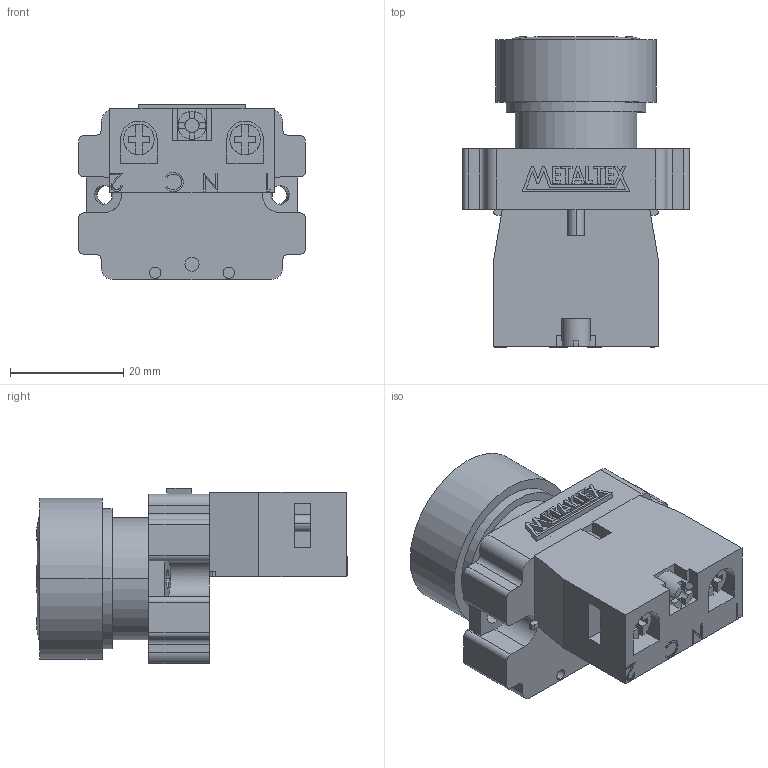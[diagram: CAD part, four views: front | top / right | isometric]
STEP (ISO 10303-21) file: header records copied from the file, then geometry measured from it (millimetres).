
FILE_DESCRIPTION (( 'STEP AP203' ), '1' );
FILE_NAME ('M20AFR-G-1A.STEP', '2018-01-17T13:50:59', ( '' ), ( '' ), 'SwSTEP 2.0', 'SolidWorks 2012', '' );
FILE_SCHEMA (( 'CONFIG_CONTROL_DESIGN' ));
Length unit declared in the file: millimetre
Products named in the file (4): M20AFR; M20-1B; METALTEX 18,98; M20AFR-G-1A
Assembly tree (3 placements, depth 2):
  M20AFR-G-1A
    M20AFR
    M20-1B
    METALTEX 18,98
Bounding box: 40 x 54.77 x 30.9 mm (x, y, z)
Volume: 30789.9 mm3; surface area: 11167.9 mm2
Topology: 9 solids, 9 shells, 343 faces, 897 edges, 595 vertices
Faces by surface type: plane 253, cylinder 69, bspline 17, torus 4
Entity records: 11847 total; most frequent: CARTESIAN_POINT 2944, ORIENTED_EDGE 1790, DIRECTION 1687, EDGE_CURVE 895, LINE 687, VECTOR 687, VERTEX_POINT 595, AXIS2_PLACEMENT_3D 500
